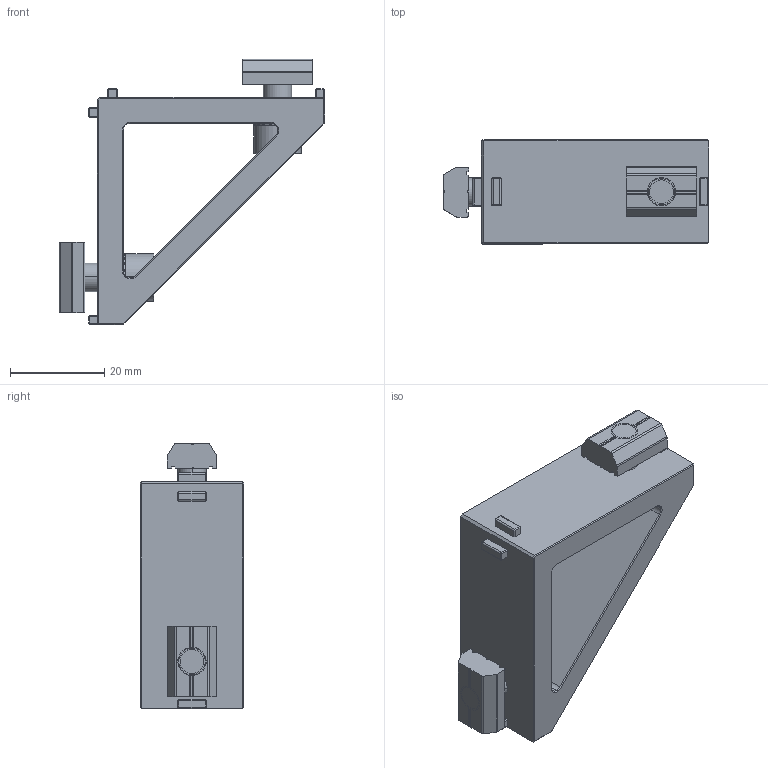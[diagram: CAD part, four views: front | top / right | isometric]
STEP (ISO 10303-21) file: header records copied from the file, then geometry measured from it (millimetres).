
FILE_DESCRIPTION (( 'STEP AP214' ), '1' );
FILE_NAME ('SMBD3-4040T.STEP', '2023-07-20T06:11:48', ( 'Windows User' ), ( 'P R C' ), 'SwSTEP 2.0', 'SolidWorks 2019', '' );
FILE_SCHEMA (( 'AUTOMOTIVE_DESIGN' ));
Length unit declared in the file: millimetre
Products named in the file (5): PTC-M6L14; 4040倰第褒璃; PTN-M6; SMBD3-4040T; PTS-M6
Assembly tree (7 placements, depth 2):
  SMBD3-4040T
    4040倰第褒璃
    PTC-M6L14  x2
    PTN-M6  x2
    PTS-M6  x2
Bounding box: 56.25 x 22 x 56.25 mm (x, y, z)
Volume: 18925.1 mm3; surface area: 10878.3 mm2
Topology: 7 solids, 7 shells, 593 faces, 1672 edges, 1089 vertices
Faces by surface type: plane 459, cylinder 91, cone 39, bspline 4
Entity records: 13604 total; most frequent: CARTESIAN_POINT 4052, ORIENTED_EDGE 1982, DIRECTION 1964, EDGE_CURVE 991, LINE 658, VECTOR 658, AXIS2_PLACEMENT_3D 653, VERTEX_POINT 637
